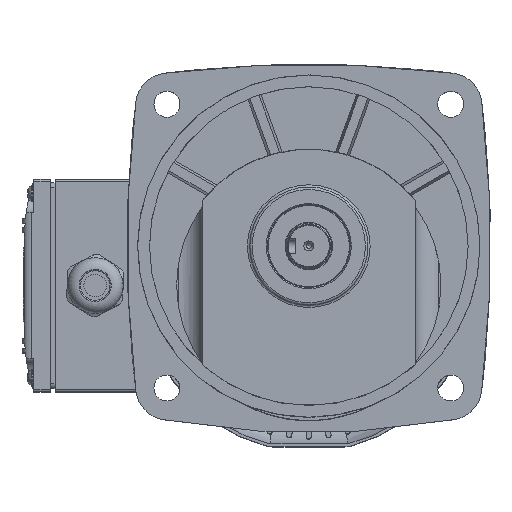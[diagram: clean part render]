
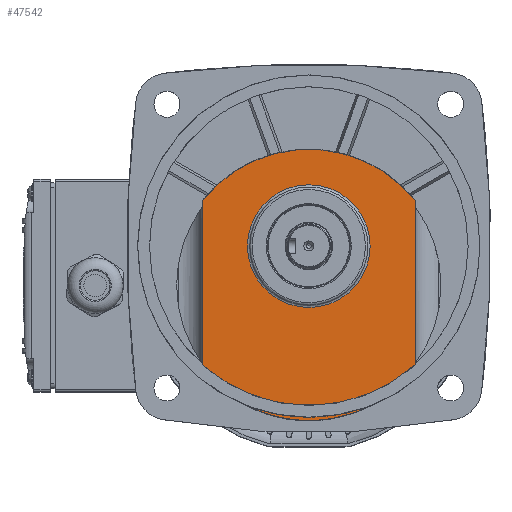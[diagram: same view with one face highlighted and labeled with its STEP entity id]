
A CAD part, top view. The second image highlights one B-rep face of the part: STEP entity #47542.
In plain terms, the highlighted planar face has unit normal (0, 0, 1).
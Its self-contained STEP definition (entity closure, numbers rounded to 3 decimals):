
#3759=FACE_BOUND('',#10247,.T.);
#4788=PLANE('',#52481);
#7328=FACE_OUTER_BOUND('',#10246,.T.);
#10246=EDGE_LOOP('',(#42616,#42617,#42618,#42619,#42620,#42621));
#10247=EDGE_LOOP('',(#42622));
#13158=LINE('',#95891,#15999);
#13164=LINE('',#95901,#16005);
#13166=LINE('',#95948,#16007);
#13171=LINE('',#95962,#16012);
#15999=VECTOR('',#64642,69.606);
#16005=VECTOR('',#64650,69.606);
#16007=VECTOR('',#64664,1.983);
#16012=VECTOR('',#64679,1.983);
#18719=CIRCLE('',#52316,57.5);
#18786=CIRCLE('',#52473,57.5);
#18791=CIRCLE('',#52482,26.);
#22872=VERTEX_POINT('',#95420);
#22873=VERTEX_POINT('',#95424);
#23003=VERTEX_POINT('',#95890);
#23006=VERTEX_POINT('',#95899);
#23009=VERTEX_POINT('',#95947);
#23012=VERTEX_POINT('',#95955);
#23017=VERTEX_POINT('',#95974);
#29418=EDGE_CURVE('',#22872,#22873,#18719,.T.);
#29631=EDGE_CURVE('',#23003,#22873,#13158,.T.);
#29637=EDGE_CURVE('',#22872,#23006,#13164,.T.);
#29642=EDGE_CURVE('',#23006,#23009,#13166,.T.);
#29646=EDGE_CURVE('',#23012,#23009,#18786,.T.);
#29650=EDGE_CURVE('',#23012,#23003,#13171,.T.);
#29656=EDGE_CURVE('',#23017,#23017,#18791,.T.);
#42616=ORIENTED_EDGE('',*,*,#29637,.T.);
#42617=ORIENTED_EDGE('',*,*,#29642,.T.);
#42618=ORIENTED_EDGE('',*,*,#29646,.F.);
#42619=ORIENTED_EDGE('',*,*,#29650,.T.);
#42620=ORIENTED_EDGE('',*,*,#29631,.T.);
#42621=ORIENTED_EDGE('',*,*,#29418,.F.);
#42622=ORIENTED_EDGE('',*,*,#29656,.F.);
#47542=ADVANCED_FACE('',(#7328,#3759),#4788,.F.);
#52316=AXIS2_PLACEMENT_3D('',#95425,#64200,#64201);
#52473=AXIS2_PLACEMENT_3D('',#95956,#64670,#64671);
#52481=AXIS2_PLACEMENT_3D('',#95973,#64691,#64692);
#52482=AXIS2_PLACEMENT_3D('',#95975,#64693,#64694);
#64200=DIRECTION('center_axis',(0.,0.,-1.));
#64201=DIRECTION('ref_axis',(-1.,0.,0.));
#64642=DIRECTION('',(0.,1.,0.));
#64650=DIRECTION('',(0.,-1.,0.));
#64664=DIRECTION('',(0.,-1.,0.));
#64670=DIRECTION('center_axis',(0.,0.,-1.));
#64671=DIRECTION('ref_axis',(-1.,0.,0.));
#64679=DIRECTION('',(0.,1.,0.));
#64691=DIRECTION('center_axis',(0.,0.,-1.));
#64692=DIRECTION('ref_axis',(-1.,0.,0.));
#64693=DIRECTION('center_axis',(0.,0.,1.));
#64694=DIRECTION('ref_axis',(-1.,0.,0.));
#95420=CARTESIAN_POINT('',(-57.81,31.208,25.75));
#95424=CARTESIAN_POINT('',(32.19,31.208,25.75));
#95425=CARTESIAN_POINT('Origin',(-12.81,-4.587,25.75));
#95890=CARTESIAN_POINT('',(32.19,-38.398,25.75));
#95891=CARTESIAN_POINT('',(32.19,-38.398,25.75));
#95899=CARTESIAN_POINT('',(-57.81,-38.398,25.75));
#95901=CARTESIAN_POINT('',(-57.81,31.208,25.75));
#95947=CARTESIAN_POINT('',(-57.81,-40.381,25.75));
#95948=CARTESIAN_POINT('',(-57.81,-38.398,25.75));
#95955=CARTESIAN_POINT('',(32.19,-40.381,25.75));
#95956=CARTESIAN_POINT('Origin',(-12.81,-4.587,25.75));
#95962=CARTESIAN_POINT('',(32.19,-40.381,25.75));
#95973=CARTESIAN_POINT('Origin',(-12.81,-4.587,25.75));
#95974=CARTESIAN_POINT('',(13.19,11.913,25.75));
#95975=CARTESIAN_POINT('Origin',(-12.81,11.913,25.75));
